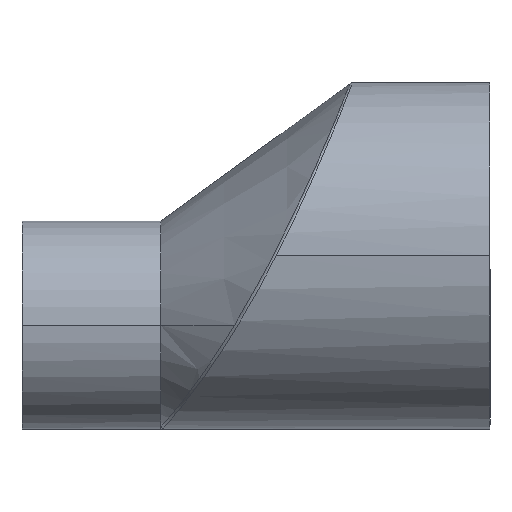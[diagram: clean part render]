
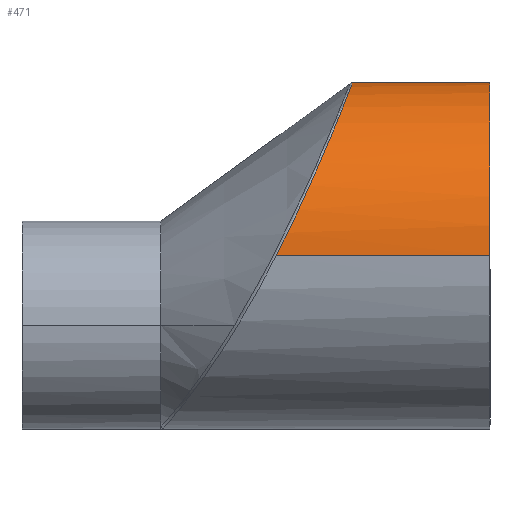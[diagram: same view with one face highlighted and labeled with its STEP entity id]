
A CAD part, top view. The second image highlights one B-rep face of the part: STEP entity #471.
In plain terms, the highlighted cylindrical face has radius 31.75 mm (diameter 63.5 mm), a partial arc.
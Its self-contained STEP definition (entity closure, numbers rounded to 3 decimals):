
#33 = CARTESIAN_POINT ( 'NONE',  ( 0., 0., 31.75 ) ) ;
#49 = CARTESIAN_POINT ( 'NONE',  ( -30.464, 18.711, 25.671 ) ) ;
#56 = ORIENTED_EDGE ( 'NONE', *, *, #336, .F. ) ;
#66 = CARTESIAN_POINT ( 'NONE',  ( -31.962, 15.249, 27.925 ) ) ;
#95 = CARTESIAN_POINT ( 'NONE',  ( -85.725, 0., -31.75 ) ) ;
#101 = CARTESIAN_POINT ( 'NONE',  ( -34.48, 9.67, -30.258 ) ) ;
#116 = VERTEX_POINT ( 'NONE', #1314 ) ;
#135 = CARTESIAN_POINT ( 'NONE',  ( -39.164, 0., -31.75 ) ) ;
#156 = CARTESIAN_POINT ( 'NONE',  ( -25.169, 31.685, 2.106 ) ) ;
#166 = DIRECTION ( 'NONE',  ( 1., 0., 0. ) ) ;
#172 = CARTESIAN_POINT ( 'NONE',  ( -25.148, 31.739, 1.009 ) ) ;
#245 = CARTESIAN_POINT ( 'NONE',  ( -85.725, 0., 0. ) ) ;
#277 = CARTESIAN_POINT ( 'NONE',  ( -30.827, 17.866, 26.267 ) ) ;
#280 = DIRECTION ( 'NONE',  ( 0., 0., -1. ) ) ;
#287 = CARTESIAN_POINT ( 'NONE',  ( -34.034, 10.641, 29.93 ) ) ;
#336 = EDGE_CURVE ( 'NONE', #849, #1302, #736, .T. ) ;
#384 = CARTESIAN_POINT ( 'NONE',  ( -27.956, 24.702, -20.061 ) ) ;
#391 = CARTESIAN_POINT ( 'NONE',  ( -34.047, 10.612, -29.941 ) ) ;
#395 = CARTESIAN_POINT ( 'NONE',  ( -26.979, 27.116, -16.525 ) ) ;
#400 = CARTESIAN_POINT ( 'NONE',  ( -30.315, 19.061, -25.397 ) ) ;
#435 = CARTESIAN_POINT ( 'NONE',  ( -36.062, 6.301, -31.122 ) ) ;
#471 = ADVANCED_FACE ( 'NONE', ( #1136 ), #542, .T. ) ;
#480 = CARTESIAN_POINT ( 'NONE',  ( -38.177, 1.94, 31.75 ) ) ;
#497 = CARTESIAN_POINT ( 'NONE',  ( -30.493, 18.646, -25.704 ) ) ;
#506 = CARTESIAN_POINT ( 'NONE',  ( -26.869, 27.39, -16.066 ) ) ;
#509 = CARTESIAN_POINT ( 'NONE',  ( -35.826, 6.797, 31.018 ) ) ;
#513 = CARTESIAN_POINT ( 'NONE',  ( -34.469, 9.694, 30.25 ) ) ;
#518 = CARTESIAN_POINT ( 'NONE',  ( -26.007, 29.554, 11.616 ) ) ;
#522 = CARTESIAN_POINT ( 'NONE',  ( -38.184, 1.927, -31.75 ) ) ;
#533 = CARTESIAN_POINT ( 'NONE',  ( 0., 0., -31.75 ) ) ;
#542 = CYLINDRICAL_SURFACE ( 'NONE', #869, 31.75 ) ;
#582 = CARTESIAN_POINT ( 'NONE',  ( -25.499, 30.841, -7.621 ) ) ;
#596 = CARTESIAN_POINT ( 'NONE',  ( -25.856, 29.934, 10.597 ) ) ;
#603 = CARTESIAN_POINT ( 'NONE',  ( -25.787, 30.111, 10.084 ) ) ;
#609 = CARTESIAN_POINT ( 'NONE',  ( -35.14, 8.253, 30.663 ) ) ;
#616 = CARTESIAN_POINT ( 'NONE',  ( -25.487, 30.873, 7.488 ) ) ;
#623 = CARTESIAN_POINT ( 'NONE',  ( -25.594, 30.601, 8.535 ) ) ;
#648 = DIRECTION ( 'NONE',  ( 1., 0., 0. ) ) ;
#695 = CARTESIAN_POINT ( 'NONE',  ( -35.367, 7.768, 30.789 ) ) ;
#712 = CARTESIAN_POINT ( 'NONE',  ( -32.763, 13.44, 28.835 ) ) ;
#719 = CARTESIAN_POINT ( 'NONE',  ( -25.61, 30.558, -8.686 ) ) ;
#722 = VECTOR ( 'NONE', #1077, 1000. ) ;
#725 = CARTESIAN_POINT ( 'NONE',  ( -29.795, 20.285, -24.447 ) ) ;
#730 = CARTESIAN_POINT ( 'NONE',  ( -25.315, 31.312, 5.366 ) ) ;
#736 = CIRCLE ( 'NONE', #960, 31.75 ) ;
#755 = VECTOR ( 'NONE', #648, 1000. ) ;
#775 = CARTESIAN_POINT ( 'NONE',  ( -35.147, 8.238, -30.667 ) ) ;
#817 = DIRECTION ( 'NONE',  ( 0., 0., -1. ) ) ;
#819 = CARTESIAN_POINT ( 'NONE',  ( -30.857, 17.798, -26.298 ) ) ;
#825 = DIRECTION ( 'NONE',  ( 1., 0., 0. ) ) ;
#827 = CARTESIAN_POINT ( 'NONE',  ( -26.515, 28.273, 14.608 ) ) ;
#832 = CARTESIAN_POINT ( 'NONE',  ( 0., 0., 0. ) ) ;
#838 = CARTESIAN_POINT ( 'NONE',  ( -25.143, 31.751, 0.462 ) ) ;
#843 = CARTESIAN_POINT ( 'NONE',  ( -25.146, 31.744, -2.266 ) ) ;
#849 = VERTEX_POINT ( 'NONE', #533 ) ;
#850 = CARTESIAN_POINT ( 'NONE',  ( -25.235, 31.516, -4.423 ) ) ;
#859 = EDGE_LOOP ( 'NONE', ( #1014, #1293, #56, #921 ) ) ;
#869 = AXIS2_PLACEMENT_3D ( 'NONE', #245, #166, #280 ) ;
#903 = VERTEX_POINT ( 'NONE', #904 ) ;
#904 = CARTESIAN_POINT ( 'NONE',  ( -39.164, 0., 31.75 ) ) ;
#921 = ORIENTED_EDGE ( 'NONE', *, *, #1298, .F. ) ;
#935 = CARTESIAN_POINT ( 'NONE',  ( -25.25, 31.478, 4.29 ) ) ;
#942 = CARTESIAN_POINT ( 'NONE',  ( -28.521, 23.326, -21.639 ) ) ;
#950 = CARTESIAN_POINT ( 'NONE',  ( -25.872, 29.894, -10.751 ) ) ;
#957 = CARTESIAN_POINT ( 'NONE',  ( -26.023, 29.512, -11.757 ) ) ;
#960 = AXIS2_PLACEMENT_3D ( 'NONE', #832, #825, #817 ) ;
#962 = CARTESIAN_POINT ( 'NONE',  ( -26.364, 28.654, -13.718 ) ) ;
#1014 = ORIENTED_EDGE ( 'NONE', *, *, #1381, .T. ) ;
#1040 = CARTESIAN_POINT ( 'NONE',  ( -36.057, 6.311, 31.12 ) ) ;
#1049 = CARTESIAN_POINT ( 'NONE',  ( -25.186, 31.643, 2.656 ) ) ;
#1055 = CARTESIAN_POINT ( 'NONE',  ( -26.554, 28.177, -14.672 ) ) ;
#1059 = LINE ( 'NONE', #1082, #722 ) ;
#1062 = CARTESIAN_POINT ( 'NONE',  ( -31.044, 17.366, -26.585 ) ) ;
#1066 = CARTESIAN_POINT ( 'NONE',  ( -31.986, 15.195, -27.954 ) ) ;
#1070 = CARTESIAN_POINT ( 'NONE',  ( -27.55, 25.704, 18.645 ) ) ;
#1077 = DIRECTION ( 'NONE',  ( 1., 0., 0. ) ) ;
#1082 = CARTESIAN_POINT ( 'NONE',  ( -85.725, 0., 31.75 ) ) ;
#1100 = CARTESIAN_POINT ( 'NONE',  ( -37.228, 3.866, -31.576 ) ) ;
#1136 = FACE_OUTER_BOUND ( 'NONE', #859, .T. ) ;
#1152 = CARTESIAN_POINT ( 'NONE',  ( -32.783, 13.394, -28.855 ) ) ;
#1159 = CARTESIAN_POINT ( 'NONE',  ( -29.464, 21.07, -23.774 ) ) ;
#1163 = CARTESIAN_POINT ( 'NONE',  ( -37.22, 3.883, 31.574 ) ) ;
#1168 = CARTESIAN_POINT ( 'NONE',  ( -27.678, 25.389, 19.073 ) ) ;
#1173 = CARTESIAN_POINT ( 'NONE',  ( -26.932, 27.228, 16.469 ) ) ;
#1211 = B_SPLINE_CURVE_WITH_KNOTS ( 'NONE', 3,
 ( #135, #522, #1100, #435, #1333, #1424, #775, #101, #391, #1152, #1066, #1062, #819, #497, #400, #725, #1159, #942, #384, #1252, #1268, #395, #506, #1055, #962, #957, #950, #719, #582, #850, #843, #838, #172, #156, #1049, #935, #730, #616, #623, #603, #596, #518, #1347, #827, #1173, #1070, #1168, #1264, #1275, #1362, #1371, #1376, #1382, #49, #277, #66, #712, #287, #513, #609, #695, #509, #1040, #1163, #480, #1241 ),
 .UNSPECIFIED., .F., .F.,
 ( 4, 2, 2, 2, 2, 2, 2, 2, 2, 2, 2, 2, 2, 2, 2, 2, 2, 2, 2, 2, 2, 2, 2, 2, 2, 2, 2, 2, 2, 2, 2, 2, 4 ),
 ( 0.051, 0.057, 0.059, 0.061, 0.064, 0.07, 0.072, 0.074, 0.077, 0.083, 0.085, 0.087, 0.09, 0.093, 0.096, 0.103, 0.105, 0.106, 0.109, 0.113, 0.114, 0.116, 0.123, 0.124, 0.126, 0.129, 0.132, 0.136, 0.142, 0.145, 0.147, 0.149, 0.155 ),
 .UNSPECIFIED. ) ;
#1241 = CARTESIAN_POINT ( 'NONE',  ( -39.164, 0., 31.75 ) ) ;
#1252 = CARTESIAN_POINT ( 'NONE',  ( -27.33, 26.246, -17.875 ) ) ;
#1264 = CARTESIAN_POINT ( 'NONE',  ( -27.945, 24.735, 19.912 ) ) ;
#1268 = CARTESIAN_POINT ( 'NONE',  ( -27.21, 26.544, -17.428 ) ) ;
#1275 = CARTESIAN_POINT ( 'NONE',  ( -28.084, 24.397, 20.326 ) ) ;
#1293 = ORIENTED_EDGE ( 'NONE', *, *, #1393, .T. ) ;
#1298 = EDGE_CURVE ( 'NONE', #116, #849, #1321, .T. ) ;
#1302 = VERTEX_POINT ( 'NONE', #33 ) ;
#1314 = CARTESIAN_POINT ( 'NONE',  ( -39.164, 0., -31.75 ) ) ;
#1321 = LINE ( 'NONE', #95, #755 ) ;
#1333 = CARTESIAN_POINT ( 'NONE',  ( -35.83, 6.789, -31.02 ) ) ;
#1347 = CARTESIAN_POINT ( 'NONE',  ( -26.088, 29.35, 12.123 ) ) ;
#1362 = CARTESIAN_POINT ( 'NONE',  ( -28.51, 23.359, 21.53 ) ) ;
#1371 = CARTESIAN_POINT ( 'NONE',  ( -28.81, 22.635, 22.289 ) ) ;
#1376 = CARTESIAN_POINT ( 'NONE',  ( -29.441, 21.125, 23.725 ) ) ;
#1381 = EDGE_CURVE ( 'NONE', #116, #903, #1211, .T. ) ;
#1382 = CARTESIAN_POINT ( 'NONE',  ( -29.771, 20.34, 24.401 ) ) ;
#1393 = EDGE_CURVE ( 'NONE', #903, #1302, #1059, .T. ) ;
#1424 = CARTESIAN_POINT ( 'NONE',  ( -35.372, 7.758, -30.792 ) ) ;
